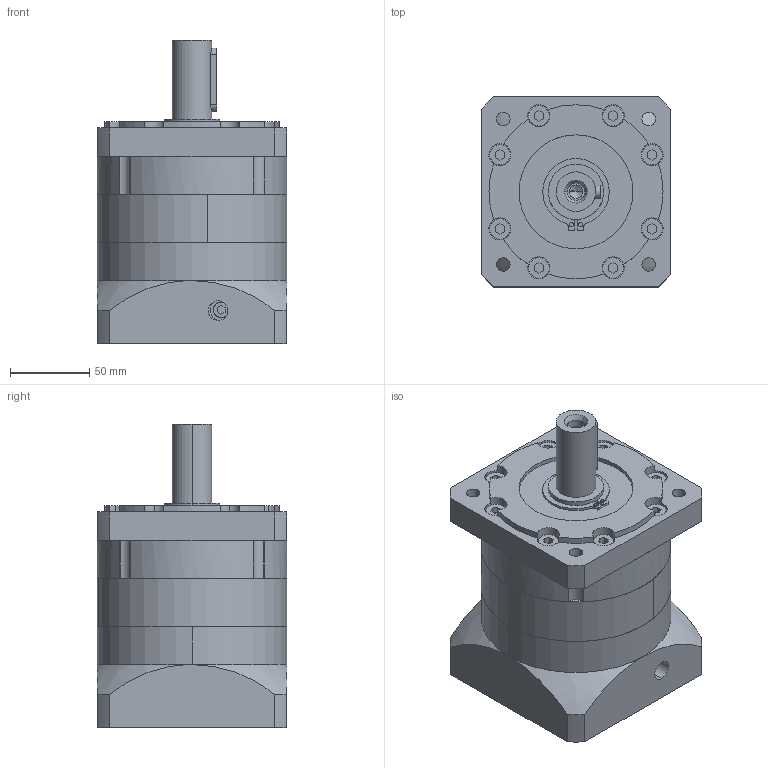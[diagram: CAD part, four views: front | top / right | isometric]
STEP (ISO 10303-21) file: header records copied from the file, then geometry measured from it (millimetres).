
FILE_DESCRIPTION (( 'STEP AP203' ), '1' );
FILE_NAME ('PLF120-L1-24-95-115.STEP', '2024-09-06T06:18:25', ( 'Windows User' ), ( 'P R C' ), 'SwSTEP 2.0', 'SolidWorks 2016', '' );
FILE_SCHEMA (( 'CONFIG_CONTROL_DESIGN' ));
Length unit declared in the file: millimetre
Products named in the file (8): PLF120 蟀諉啣-95-M6-115-LR47; PLF120 κｳﾝﾈｦ-ﾓﾅｻｯ_ﾒｻｼｶﾄﾚｳﾝﾈｦ; PLF120 奻屳唳; PLF120 狟屳唳-24; 粣創-6007 40x68x15; 邧埴瑩 8x7x40; PLF120-L1-24-95-115; 囀鞠褒蹟佪 M6x20
Assembly tree (7 placements, depth 2):
  PLF120-L1-24-95-115
    囀鞠褒蹟佪 M6x20
    PLF120 蟀諉啣-95-M6-115-LR47
    PLF120 κｳﾝﾈｦ-ﾓﾅｻｯ_ﾒｻｼｶﾄﾚｳﾝﾈｦ
    PLF120 奻屳唳
    PLF120 狟屳唳-24
    粣創-6007 40x68x15
    邧埴瑩 8x7x40
Bounding box: 120 x 120 x 192 mm (x, y, z)
Volume: 1581146.5 mm3; surface area: 225366.8 mm2
Topology: 7 solids, 15 shells, 573 faces, 1540 edges, 1009 vertices
Faces by surface type: cylinder 208, plane 203, bspline 148, cone 14
Entity records: 24238 total; most frequent: CARTESIAN_POINT 9685, ORIENTED_EDGE 3060, DIRECTION 2662, EDGE_CURVE 1530, AXIS2_PLACEMENT_3D 1088, VERTEX_POINT 1009, EDGE_LOOP 671, CIRCLE 653
